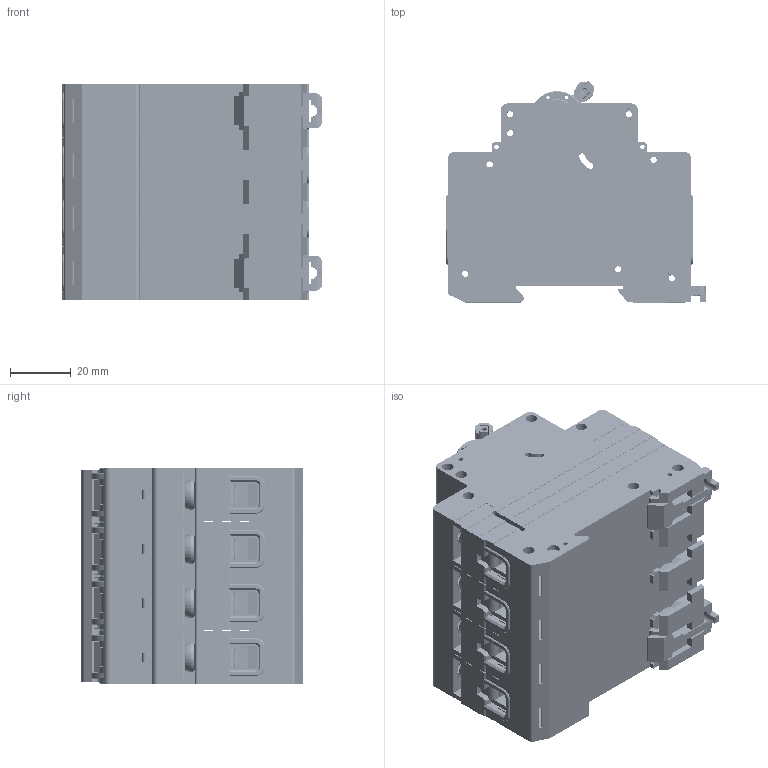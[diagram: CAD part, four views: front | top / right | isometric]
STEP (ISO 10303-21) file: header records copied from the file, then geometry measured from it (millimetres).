
FILE_DESCRIPTION (( 'STEP AP214' ), '1' );
FILE_NAME ('OptiDin 蟯63 4,5篔 - 4 瀁錌黟.STEP', '2022-11-18T07:47:55', ( '' ), ( '' ), 'SwSTEP 2.0', 'SolidWorks 2018', '' );
FILE_SCHEMA (( 'AUTOMOTIVE_DESIGN' ));
Length unit declared in the file: millimetre
Products named in the file (10): Ñêîáà ÃÆÈÊ.746442.005.step; OptiDin 蟯63 4,5篔 - 4 瀁錌黟; _____ ____.753725.004.step.STEP; _____ ____.745315.008.step.STEP; 蟯63 4,5篔.STEP_1; ____ ____.758151.057.step.STEP; Çàù¸ëêà ÃÆÈÊ.741358.031.step; _______ ____.745418.015.step.STEP; ________ ______ 041.step.STEP; ________ _____ 042.step.STEP
Assembly tree (16 placements, depth 3):
  OptiDin 蟯63 4,5篔 - 4 瀁錌黟
    蟯63 4,5篔.STEP_1  x4
      ________ ______ 041.step.STEP
      ________ _____ 042.step.STEP
      _____ ____.745315.008.step.STEP
      ____ ____.758151.057.step.STEP
      _______ ____.745418.015.step.STEP
      _____ ____.753725.004.step.STEP
    Çàù¸ëêà ÃÆÈÊ.741358.031.step  x2
    Ñêîáà ÃÆÈÊ.746442.005.step
Bounding box: 85.5 x 72.85 x 71.2 mm (x, y, z)
Volume: 116829.7 mm3; surface area: 160625.8 mm2
Topology: 39 solids, 39 shells, 6505 faces, 17643 edges, 11388 vertices
Faces by surface type: plane 4312, cylinder 1965, cone 148, torus 56, bspline 16, sphere 8
Entity records: 46775 total; most frequent: CARTESIAN_POINT 8307, ORIENTED_EDGE 7854, DIRECTION 7731, EDGE_CURVE 3927, LINE 2867, VECTOR 2867, VERTEX_POINT 2551, AXIS2_PLACEMENT_3D 2432
